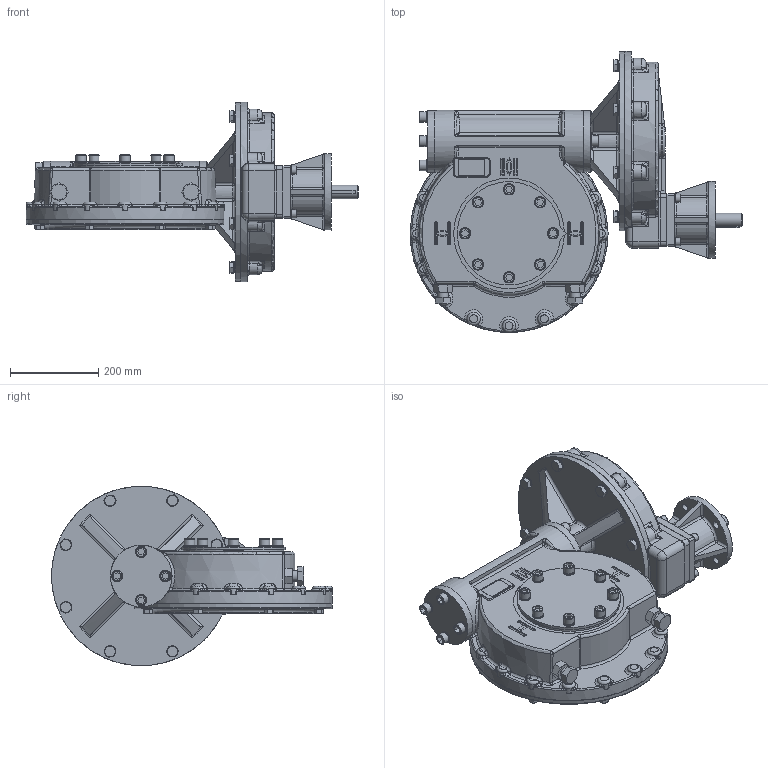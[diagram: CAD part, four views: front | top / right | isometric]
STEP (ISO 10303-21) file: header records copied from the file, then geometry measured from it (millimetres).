
FILE_DESCRIPTION(/* description */ ('Unknown'),/* implementation_level */ '2;1');
FILE_NAME(/* name */ 'PUB-IW72FBIRL-F14-F30',/* time_stamp */ '2016-07-11T08:22:43+01:00',/* author */ ('Unknown'),/* organization */ ('Unknown'),/* preprocessor_version */ 'ST-DEVELOPER v16',/* originating_system */ 'DEX',/* authorisation */ $);
FILE_SCHEMA (('AUTOMOTIVE_DESIGN {1 0 10303 214 3 1 1}'));
Products named in the file (1): PUB-IW72FBIRL-F14-F30
Bounding box: 754.5 x 638.63 x 408 mm (x, y, z)
Surface area: 1473731.8 mm2 (no closed solid volume)
Topology: 0 solids, 124 shells, 1973 faces, 7645 edges, 5691 vertices
Faces by surface type: plane 985, cylinder 363, bspline 254, cone 167, torus 154, sphere 50
Full cylindrical faces by diameter (mm): 12.5 x8, 16.5 x4, 17.294 x8, 18 x4, 19 x12, 24 x18, 30 x1, 50 x1, 100 x1, 140 x3, 170 x1, 175 x1, 230 x1, 251.5 x1, 408 x1
Entity records: 109907 total; most frequent: CARTESIAN_POINT 51983, ORIENTED_EDGE 10870, DIRECTION 10080, EDGE_CURVE 7374, VERTEX_POINT 5644, LINE 3724, VECTOR 3724, AXIS2_PLACEMENT_3D 3178
